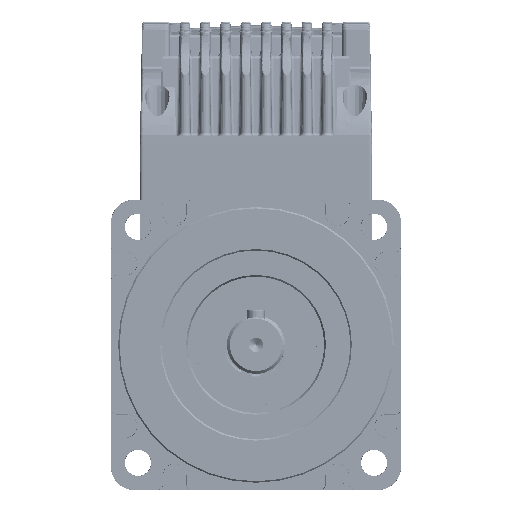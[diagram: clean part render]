
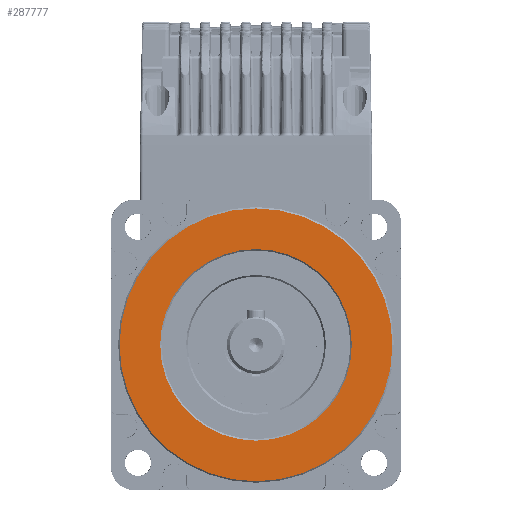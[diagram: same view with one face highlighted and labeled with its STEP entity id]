
A CAD part, front view. The second image highlights one B-rep face of the part: STEP entity #287777.
In plain terms, the highlighted planar face has unit normal (0, -1, 0).
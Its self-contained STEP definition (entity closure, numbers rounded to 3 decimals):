
#287607=AXIS2_PLACEMENT_3D('Circle Axis2P3D',#287605,#287606,$) ;
#287616=AXIS2_PLACEMENT_3D('Circle Axis2P3D',#287614,#287615,$) ;
#287654=AXIS2_PLACEMENT_3D('Circle Axis2P3D',#287652,#287653,$) ;
#287661=AXIS2_PLACEMENT_3D('Circle Axis2P3D',#287659,#287660,$) ;
#287694=AXIS2_PLACEMENT_3D('Circle Axis2P3D',#287692,#287693,$) ;
#287701=AXIS2_PLACEMENT_3D('Circle Axis2P3D',#287699,#287700,$) ;
#287734=AXIS2_PLACEMENT_3D('Circle Axis2P3D',#287732,#287733,$) ;
#287741=AXIS2_PLACEMENT_3D('Circle Axis2P3D',#287739,#287740,$) ;
#287763=AXIS2_PLACEMENT_3D('Plane Axis2P3D',#287760,#287761,#287762) ;
#287605=CARTESIAN_POINT('Axis2P3D Location',(0.,-2.5,0.)) ;
#287609=CARTESIAN_POINT('Vertex',(33.,-2.5,0.)) ;
#287611=CARTESIAN_POINT('Vertex',(0.,-2.5,-33.)) ;
#287614=CARTESIAN_POINT('Axis2P3D Location',(0.,-2.5,0.)) ;
#287618=CARTESIAN_POINT('Vertex',(0.,-2.5,33.)) ;
#287652=CARTESIAN_POINT('Axis2P3D Location',(0.,-2.5,0.)) ;
#287656=CARTESIAN_POINT('Vertex',(-33.,-2.5,0.)) ;
#287659=CARTESIAN_POINT('Axis2P3D Location',(0.,-2.5,0.)) ;
#287689=CARTESIAN_POINT('Vertex',(0.,-2.5,47.)) ;
#287692=CARTESIAN_POINT('Axis2P3D Location',(0.,-2.5,0.)) ;
#287696=CARTESIAN_POINT('Vertex',(47.,-2.5,0.)) ;
#287699=CARTESIAN_POINT('Axis2P3D Location',(0.,-2.5,0.)) ;
#287703=CARTESIAN_POINT('Vertex',(0.,-2.5,-47.)) ;
#287732=CARTESIAN_POINT('Axis2P3D Location',(0.,-2.5,0.)) ;
#287736=CARTESIAN_POINT('Vertex',(-47.,-2.5,0.)) ;
#287739=CARTESIAN_POINT('Axis2P3D Location',(0.,-2.5,0.)) ;
#287760=CARTESIAN_POINT('Axis2P3D Location',(0.,-2.5,21.5)) ;
#287606=DIRECTION('Axis2P3D Direction',(0.,-1.,0.)) ;
#287615=DIRECTION('Axis2P3D Direction',(0.,-1.,0.)) ;
#287653=DIRECTION('Axis2P3D Direction',(0.,-1.,0.)) ;
#287660=DIRECTION('Axis2P3D Direction',(0.,-1.,0.)) ;
#287693=DIRECTION('Axis2P3D Direction',(0.,1.,0.)) ;
#287700=DIRECTION('Axis2P3D Direction',(0.,1.,0.)) ;
#287733=DIRECTION('Axis2P3D Direction',(0.,1.,0.)) ;
#287740=DIRECTION('Axis2P3D Direction',(0.,1.,0.)) ;
#287761=DIRECTION('Axis2P3D Direction',(0.,-1.,0.)) ;
#287762=DIRECTION('Axis2P3D XDirection',(0.,0.,-1.)) ;
#287766=ORIENTED_EDGE('',*,*,#287698,.T.) ;
#287767=ORIENTED_EDGE('',*,*,#287743,.T.) ;
#287768=ORIENTED_EDGE('',*,*,#287738,.T.) ;
#287769=ORIENTED_EDGE('',*,*,#287705,.T.) ;
#287772=ORIENTED_EDGE('',*,*,#287613,.T.) ;
#287773=ORIENTED_EDGE('',*,*,#287663,.T.) ;
#287774=ORIENTED_EDGE('',*,*,#287658,.T.) ;
#287775=ORIENTED_EDGE('',*,*,#287620,.T.) ;
#287776=FACE_BOUND('',#287771,.T.) ;
#287777=ADVANCED_FACE('N33454',(#287770,#287776),#287764,.T.) ;
#287608=CIRCLE('generated circle',#287607,33.) ;
#287617=CIRCLE('generated circle',#287616,33.) ;
#287655=CIRCLE('generated circle',#287654,33.) ;
#287662=CIRCLE('generated circle',#287661,33.) ;
#287695=CIRCLE('generated circle',#287694,47.) ;
#287702=CIRCLE('generated circle',#287701,47.) ;
#287735=CIRCLE('generated circle',#287734,47.) ;
#287742=CIRCLE('generated circle',#287741,47.) ;
#287613=EDGE_CURVE('',#287610,#287612,#287608,.F.) ;
#287620=EDGE_CURVE('',#287619,#287610,#287617,.F.) ;
#287658=EDGE_CURVE('',#287657,#287619,#287655,.F.) ;
#287663=EDGE_CURVE('',#287612,#287657,#287662,.F.) ;
#287698=EDGE_CURVE('',#287697,#287690,#287695,.F.) ;
#287705=EDGE_CURVE('',#287704,#287697,#287702,.F.) ;
#287738=EDGE_CURVE('',#287737,#287704,#287735,.F.) ;
#287743=EDGE_CURVE('',#287690,#287737,#287742,.F.) ;
#287765=EDGE_LOOP('',(#287766,#287767,#287768,#287769)) ;
#287771=EDGE_LOOP('',(#287772,#287773,#287774,#287775)) ;
#287770=FACE_OUTER_BOUND('',#287765,.T.) ;
#287764=PLANE('Plane',#287763) ;
#287610=VERTEX_POINT('',#287609) ;
#287612=VERTEX_POINT('',#287611) ;
#287619=VERTEX_POINT('',#287618) ;
#287657=VERTEX_POINT('',#287656) ;
#287690=VERTEX_POINT('',#287689) ;
#287697=VERTEX_POINT('',#287696) ;
#287704=VERTEX_POINT('',#287703) ;
#287737=VERTEX_POINT('',#287736) ;
